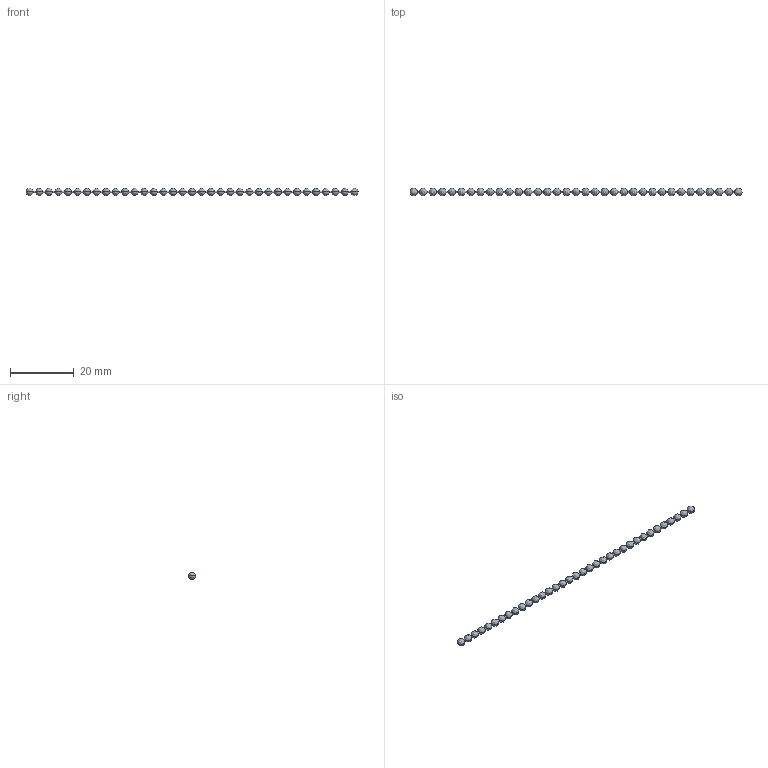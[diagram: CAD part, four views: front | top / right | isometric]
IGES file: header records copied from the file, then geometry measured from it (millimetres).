
Start section:  PTC IGES file: EB-930_1.igs
Global section: file name: EB-930_1.igs; native system: Creo Parametric by Parametric Technology Corporation; preprocessor: 2012360; author: xeon_1; organization: Unknown; date: 20130819.102803; units: millimetre
Bounding box: 104.3 x 2.3 x 2.29 mm (x, y, z)
Volume: 227.8 mm3; surface area: 608.5 mm2
Topology: 1 solids, 1 shells, 138 faces, 618 edges, 342 vertices
Faces by surface type: revolution 138
